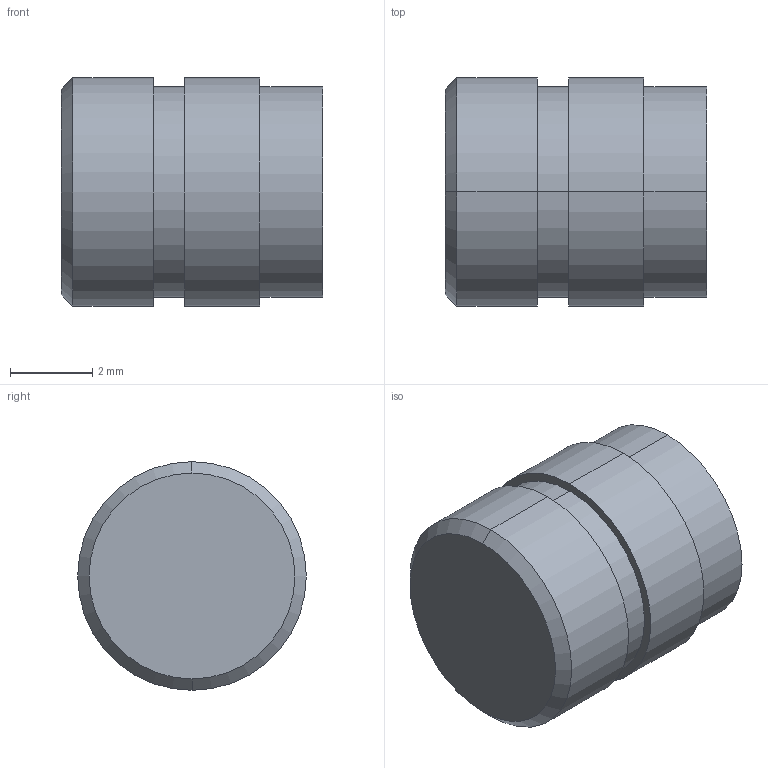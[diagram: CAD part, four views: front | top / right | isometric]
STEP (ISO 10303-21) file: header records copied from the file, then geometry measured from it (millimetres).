
FILE_DESCRIPTION(('starvars output'),'2;1');
FILE_NAME('cv20190722134137000028380.stp','13:41:37 2019/07/22',( 'Thomas Industrial Network Germany GmbH'),( 'Thomas Industrial Network Germany GmbH'),'unknown preprocess','ACIS' ,'unknown authorization');
FILE_SCHEMA(('AUTOMOTIVE_DESIGN_CC2 {UNKNOWN IMPLEMENTATION LEVEL}'));
Length unit declared in the file: millimetre
Products named in the file (1): PRODUCT_ID_1
Bounding box: 6.35 x 5.56 x 5.56 mm (x, y, z)
Volume: 112.7 mm3; surface area: 205.8 mm2
Topology: 1 solids, 1 shells, 24 faces, 48 edges, 29 vertices
Faces by surface type: cylinder 12, plane 6, cone 6
Entity records: 778 total; most frequent: ORIENTED_EDGE 92, CARTESIAN_POINT 76, DIRECTION 76, EDGE_CURVE 46, VERTEX_POINT 29, AXIS2_PLACEMENT_3D 29, EDGE_LOOP 29, FACE_BOUND 29
